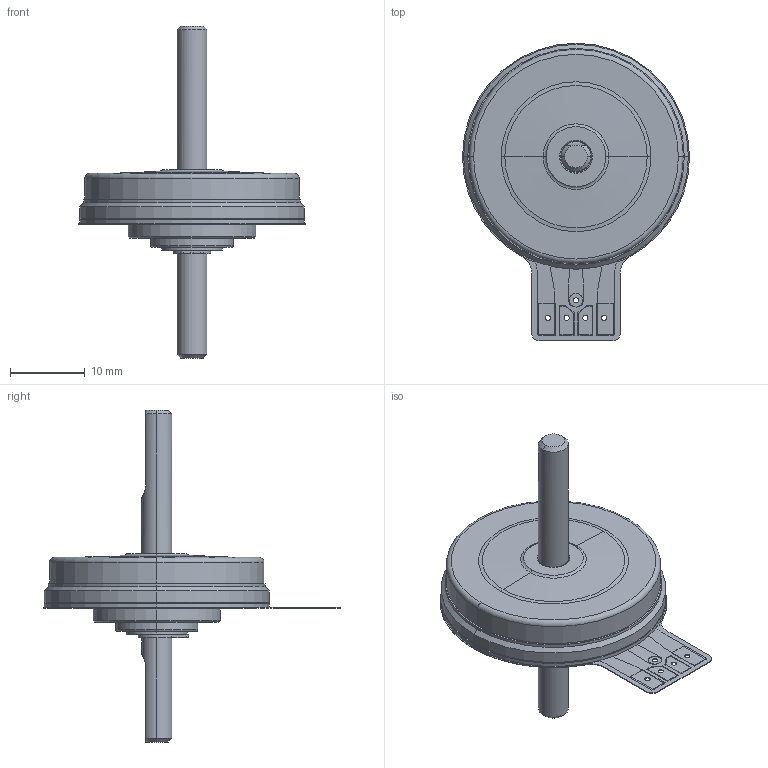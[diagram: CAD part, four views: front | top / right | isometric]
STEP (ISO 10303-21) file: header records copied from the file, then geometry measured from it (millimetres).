
FILE_DESCRIPTION (( 'STEP AP214' ), '1' );
FILE_NAME ('USR30_B4_2012.STEP', '2012-09-19T06:35:03', ( '' ), ( '' ), 'SwSTEP 2.0', 'SolidWorks 2012', '' );
FILE_SCHEMA (( 'AUTOMOTIVE_DESIGN' ));
Length unit declared in the file: millimetre
Products named in the file (1): USR30_B4_2012
Bounding box: 30.3 x 39.7 x 44.3 mm (x, y, z)
Surface area: 4054.4 mm2 (no closed solid volume)
Topology: 0 solids, 12 shells, 179 faces, 638 edges, 470 vertices
Faces by surface type: plane 75, cylinder 62, cone 36, torus 6
Entity records: 8968 total; most frequent: CARTESIAN_POINT 1358, DIRECTION 1253, ORIENTED_EDGE 964, EDGE_CURVE 638, VERTEX_POINT 470, AXIS2_PLACEMENT_3D 441, LINE 371, VECTOR 371
